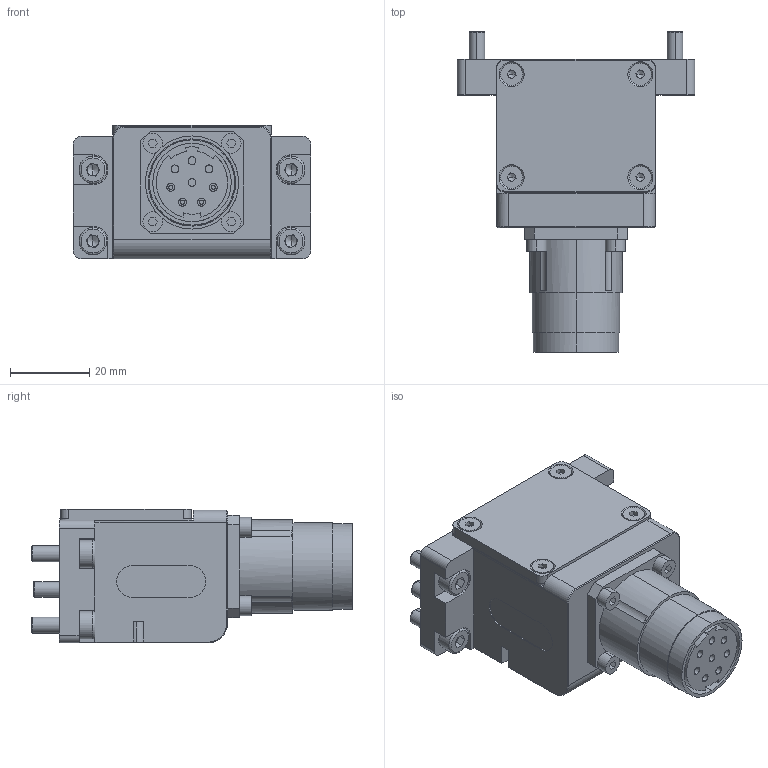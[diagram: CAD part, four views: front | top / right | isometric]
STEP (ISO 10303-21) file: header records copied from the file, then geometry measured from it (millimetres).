
FILE_DESCRIPTION (( 'STEP AP203' ), '1' );
FILE_NAME ('QCSM-08G1.STEP', '2023-12-27T09:12:58', ( '微软用户' ), ( '微软中国' ), 'SwSTEP 2.0', 'SolidWorks 2018', '' );
FILE_SCHEMA (( 'CONFIG_CONTROL_DESIGN' ));
Length unit declared in the file: millimetre
Products named in the file (1): QCSM-08G1
Bounding box: 60 x 81 x 33.8 mm (x, y, z)
Volume: 86006.5 mm3; surface area: 24403.9 mm2
Topology: 6 solids, 6 shells, 777 faces, 2003 edges, 1295 vertices
Faces by surface type: plane 340, cylinder 261, cone 148, torus 20, sphere 8
Entity records: 25731 total; most frequent: CARTESIAN_POINT 7831, ORIENTED_EDGE 3922, DIRECTION 3363, EDGE_CURVE 1961, AXIS2_PLACEMENT_3D 1342, VERTEX_POINT 1287, EDGE_LOOP 870, ADVANCED_FACE 777
